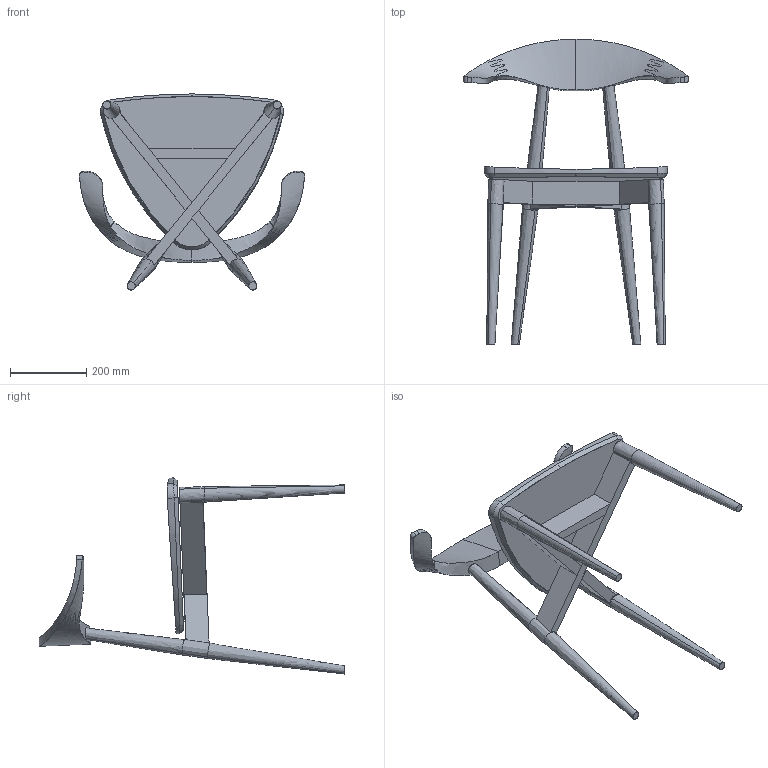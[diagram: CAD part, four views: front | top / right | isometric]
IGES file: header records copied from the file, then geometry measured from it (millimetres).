
Start section: SolidWorks IGES file using analytic representation for surfaces
Global section: file name: C:\Users\David.BDLE\Desktop\349 Manta Chair_vh_2019-10-30\349 Manta Chair_vh_cadeira prmt.IGS; native system: SolidWorks 2016; preprocessor: SolidWorks 2016; author: David; date: 200319.112649; units: millimetre
Bounding box: 589.18 x 800 x 513.32 mm (x, y, z)
Surface area: 905496.9 mm2 (no closed solid volume)
Topology: 0 solids, 0 shells, 146 faces, 2794 edges, 2794 vertices
Faces by surface type: bspline 111, revolution 35
